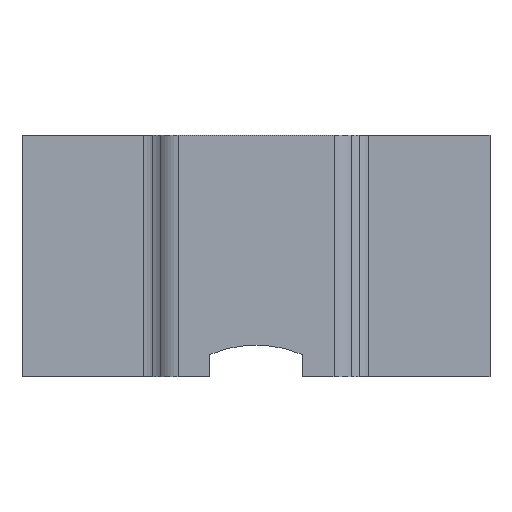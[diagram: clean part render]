
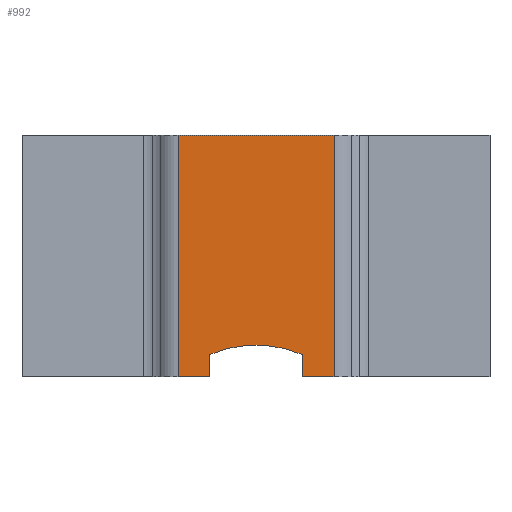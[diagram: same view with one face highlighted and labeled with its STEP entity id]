
A CAD part, top view. The second image highlights one B-rep face of the part: STEP entity #992.
In plain terms, the highlighted planar face has unit normal (0, 0, 1).
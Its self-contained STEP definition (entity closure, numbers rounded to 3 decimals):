
#4 = DIRECTION ( 'NONE',  ( 0., -1., 0. ) ) ;
#7 = VECTOR ( 'NONE', #917, 1000. ) ;
#12 = LINE ( 'NONE', #923, #688 ) ;
#49 = CARTESIAN_POINT ( 'NONE',  ( 1.481, 0., 0.767 ) ) ;
#101 = ORIENTED_EDGE ( 'NONE', *, *, #716, .T. ) ;
#137 = DIRECTION ( 'NONE',  ( 0., 1., 0. ) ) ;
#153 = VECTOR ( 'NONE', #557, 1000. ) ;
#183 = DIRECTION ( 'NONE',  ( 0., -1., 0. ) ) ;
#201 = CARTESIAN_POINT ( 'NONE',  ( -1.481, 0., 0.767 ) ) ;
#202 = VERTEX_POINT ( 'NONE', #279 ) ;
#221 = DIRECTION ( 'NONE',  ( 1., 0., 0. ) ) ;
#238 = EDGE_CURVE ( 'NONE', #253, #915, #12, .T. ) ;
#253 = VERTEX_POINT ( 'NONE', #549 ) ;
#265 = EDGE_CURVE ( 'NONE', #980, #916, #900, .T. ) ;
#267 = VECTOR ( 'NONE', #498, 1000. ) ;
#279 = CARTESIAN_POINT ( 'NONE',  ( -2.5, 0., 0.767 ) ) ;
#301 = LINE ( 'NONE', #740, #1140 ) ;
#320 = CARTESIAN_POINT ( 'NONE',  ( 2.5, 7.75, 0.767 ) ) ;
#321 = LINE ( 'NONE', #49, #449 ) ;
#351 = EDGE_CURVE ( 'NONE', #1110, #905, #634, .T. ) ;
#387 = CARTESIAN_POINT ( 'NONE',  ( -2.5, 7.75, 0.767 ) ) ;
#449 = VECTOR ( 'NONE', #137, 1000. ) ;
#462 = CARTESIAN_POINT ( 'NONE',  ( 1.25, 0., 0.767 ) ) ;
#471 = FACE_OUTER_BOUND ( 'NONE', #1119, .T. ) ;
#483 = CARTESIAN_POINT ( 'NONE',  ( 2.5, 7.75, 0.767 ) ) ;
#498 = DIRECTION ( 'NONE',  ( 1., 0., 0. ) ) ;
#503 = ORIENTED_EDGE ( 'NONE', *, *, #1103, .F. ) ;
#549 = CARTESIAN_POINT ( 'NONE',  ( -1.481, 0.717, 0.767 ) ) ;
#557 = DIRECTION ( 'NONE',  ( 1., 0., 0. ) ) ;
#567 = AXIS2_PLACEMENT_3D ( 'NONE', #1060, #1146, #584 ) ;
#584 = DIRECTION ( 'NONE',  ( -1., 0., 0. ) ) ;
#634 = LINE ( 'NONE', #387, #267 ) ;
#676 = ORIENTED_EDGE ( 'NONE', *, *, #845, .T. ) ;
#688 = VECTOR ( 'NONE', #4, 1000. ) ;
#696 = ORIENTED_EDGE ( 'NONE', *, *, #864, .F. ) ;
#700 = CARTESIAN_POINT ( 'NONE',  ( -2.5, 7.75, 0.767 ) ) ;
#703 = LINE ( 'NONE', #715, #7 ) ;
#715 = CARTESIAN_POINT ( 'NONE',  ( 1.25, 0., 0.767 ) ) ;
#716 = EDGE_CURVE ( 'NONE', #202, #915, #703, .T. ) ;
#740 = CARTESIAN_POINT ( 'NONE',  ( -2.5, 7.75, 0.767 ) ) ;
#843 = VECTOR ( 'NONE', #1128, 1000. ) ;
#844 = CARTESIAN_POINT ( 'NONE',  ( 1.481, 0.717, 0.767 ) ) ;
#845 = EDGE_CURVE ( 'NONE', #1110, #202, #301, .T. ) ;
#859 = CARTESIAN_POINT ( 'NONE',  ( 2.5, 7.75, 0.767 ) ) ;
#864 = EDGE_CURVE ( 'NONE', #1152, #253, #1121, .T. ) ;
#900 = LINE ( 'NONE', #462, #153 ) ;
#905 = VERTEX_POINT ( 'NONE', #859 ) ;
#907 = LINE ( 'NONE', #483, #843 ) ;
#915 = VERTEX_POINT ( 'NONE', #201 ) ;
#916 = VERTEX_POINT ( 'NONE', #1050 ) ;
#917 = DIRECTION ( 'NONE',  ( 1., 0., 0. ) ) ;
#923 = CARTESIAN_POINT ( 'NONE',  ( -1.481, 0.717, 0.767 ) ) ;
#970 = DIRECTION ( 'NONE',  ( 0., 0., 1. ) ) ;
#980 = VERTEX_POINT ( 'NONE', #1159 ) ;
#992 = ADVANCED_FACE ( 'NONE', ( #471 ), #1188, .T. ) ;
#1037 = ORIENTED_EDGE ( 'NONE', *, *, #1196, .F. ) ;
#1050 = CARTESIAN_POINT ( 'NONE',  ( 2.5, 0., 0.767 ) ) ;
#1060 = CARTESIAN_POINT ( 'NONE',  ( 0., -2.732, 0.767 ) ) ;
#1080 = ORIENTED_EDGE ( 'NONE', *, *, #351, .F. ) ;
#1103 = EDGE_CURVE ( 'NONE', #980, #1152, #321, .T. ) ;
#1105 = ORIENTED_EDGE ( 'NONE', *, *, #265, .T. ) ;
#1110 = VERTEX_POINT ( 'NONE', #700 ) ;
#1119 = EDGE_LOOP ( 'NONE', ( #503, #1105, #1037, #1080, #676, #101, #1201, #696 ) ) ;
#1121 = CIRCLE ( 'NONE', #567, 3.754 ) ;
#1128 = DIRECTION ( 'NONE',  ( 0., -1., 0. ) ) ;
#1140 = VECTOR ( 'NONE', #183, 1000. ) ;
#1146 = DIRECTION ( 'NONE',  ( 0., 0., 1. ) ) ;
#1152 = VERTEX_POINT ( 'NONE', #844 ) ;
#1159 = CARTESIAN_POINT ( 'NONE',  ( 1.481, 0., 0.767 ) ) ;
#1172 = AXIS2_PLACEMENT_3D ( 'NONE', #320, #970, #221 ) ;
#1188 = PLANE ( 'NONE',  #1172 ) ;
#1196 = EDGE_CURVE ( 'NONE', #905, #916, #907, .T. ) ;
#1201 = ORIENTED_EDGE ( 'NONE', *, *, #238, .F. ) ;
